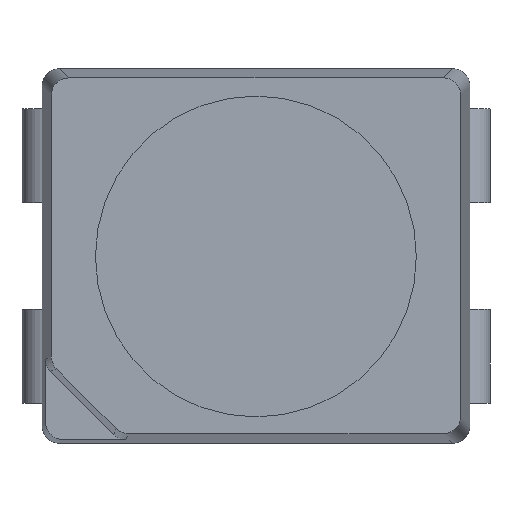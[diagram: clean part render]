
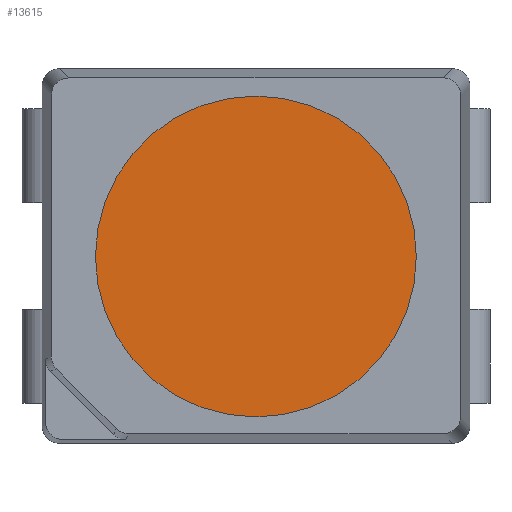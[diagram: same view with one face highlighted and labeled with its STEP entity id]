
A CAD part, top view. The second image highlights one B-rep face of the part: STEP entity #13615.
In plain terms, the highlighted planar face has unit normal (0, 0, 1).
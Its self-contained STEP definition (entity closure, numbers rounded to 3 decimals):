
#1250 = PLANE ( 'NONE',  #2183 ) ;
#1775 = CARTESIAN_POINT ( 'NONE',  ( 2.099, 5.073, -0.005 ) ) ;
#1914 = CARTESIAN_POINT ( 'NONE',  ( 3.299, 5.073, -0.005 ) ) ;
#2065 = EDGE_LOOP ( 'NONE', ( #6008, #15727 ) ) ;
#2096 = EDGE_CURVE ( 'NONE', #16297, #16388, #12115, .T. ) ;
#2183 = AXIS2_PLACEMENT_3D ( 'NONE', #1914, #16460, #17897 ) ;
#5059 = CARTESIAN_POINT ( 'NONE',  ( 4.499, 5.073, -0.005 ) ) ;
#6008 = ORIENTED_EDGE ( 'NONE', *, *, #17212, .T. ) ;
#7178 = FACE_OUTER_BOUND ( 'NONE', #2065, .T. ) ;
#7562 = CARTESIAN_POINT ( 'NONE',  ( 3.299, 5.073, -0.005 ) ) ;
#7842 = AXIS2_PLACEMENT_3D ( 'NONE', #18951, #16361, #13010 ) ;
#9118 = AXIS2_PLACEMENT_3D ( 'NONE', #7562, #12247, #13716 ) ;
#12115 = CIRCLE ( 'NONE', #7842, 1.2 ) ;
#12247 = DIRECTION ( 'NONE',  ( 0., 0., 1. ) ) ;
#13010 = DIRECTION ( 'NONE',  ( 1., 0., 0. ) ) ;
#13615 = ADVANCED_FACE ( 'NONE', ( #7178 ), #1250, .T. ) ;
#13716 = DIRECTION ( 'NONE',  ( 1., 0., 0. ) ) ;
#15727 = ORIENTED_EDGE ( 'NONE', *, *, #2096, .T. ) ;
#16297 = VERTEX_POINT ( 'NONE', #1775 ) ;
#16361 = DIRECTION ( 'NONE',  ( 0., 0., 1. ) ) ;
#16388 = VERTEX_POINT ( 'NONE', #5059 ) ;
#16460 = DIRECTION ( 'NONE',  ( 0., 0., 1. ) ) ;
#17081 = CIRCLE ( 'NONE', #9118, 1.2 ) ;
#17212 = EDGE_CURVE ( 'NONE', #16388, #16297, #17081, .T. ) ;
#17897 = DIRECTION ( 'NONE',  ( 1., 0., 0. ) ) ;
#18951 = CARTESIAN_POINT ( 'NONE',  ( 3.299, 5.073, -0.005 ) ) ;
